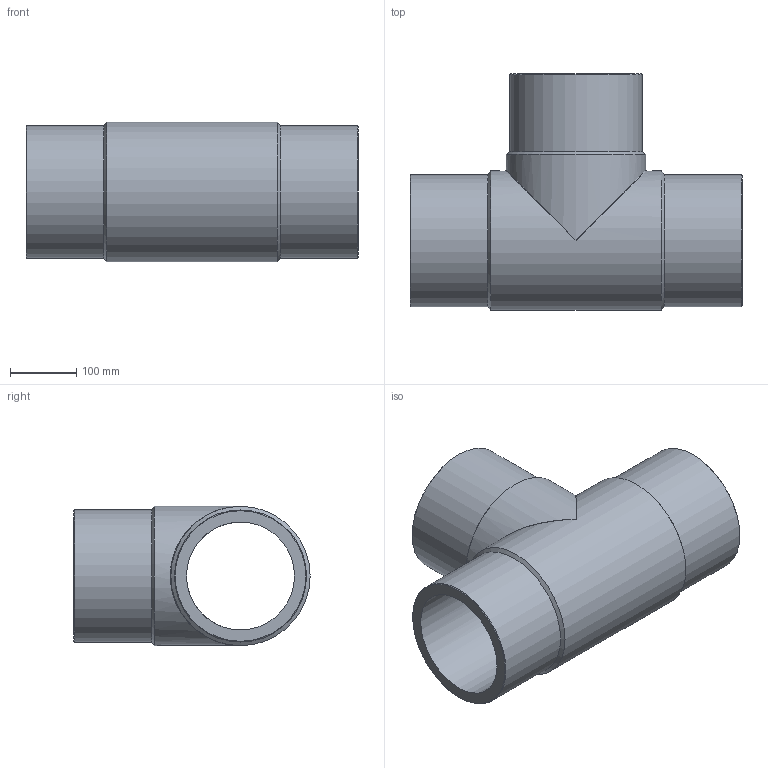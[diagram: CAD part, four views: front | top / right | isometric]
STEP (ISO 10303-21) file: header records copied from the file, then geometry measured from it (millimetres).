
FILE_DESCRIPTION(/* description */ ('Unknown'),/* implementation_level */ '2;1');
FILE_NAME(/* name */ 'TP200C',/* time_stamp */ '2021-08-06T09:53:59+02:00',/* author */ ('Unknown'),/* organization */ ('Unknown'),/* preprocessor_version */ 'ST-DEVELOPER v16.7',/* originating_system */ 'Solid Edge',/* authorisation */ 'Unknown');
FILE_SCHEMA (('AUTOMOTIVE_DESIGN {1 0 10303 214 3 1 1}'));
Length unit declared in the file: millimetre
Products named in the file (1): TP200C
Bounding box: 503 x 358 x 211 mm (x, y, z)
Volume: 7584808.7 mm3; surface area: 769478.7 mm2
Topology: 1 solids, 1 shells, 18 faces, 44 edges, 23 vertices
Faces by surface type: cylinder 7, cone 6, plane 3, bspline 2
Full cylindrical faces by diameter (mm): 163.6 x2, 200 x3, 211 x2
Entity records: 516 total; most frequent: CARTESIAN_POINT 159, DIRECTION 76, ORIENTED_EDGE 42, AXIS2_PLACEMENT_3D 38, EDGE_LOOP 36, FACE_BOUND 36, EDGE_CURVE 21, VERTEX_POINT 19
